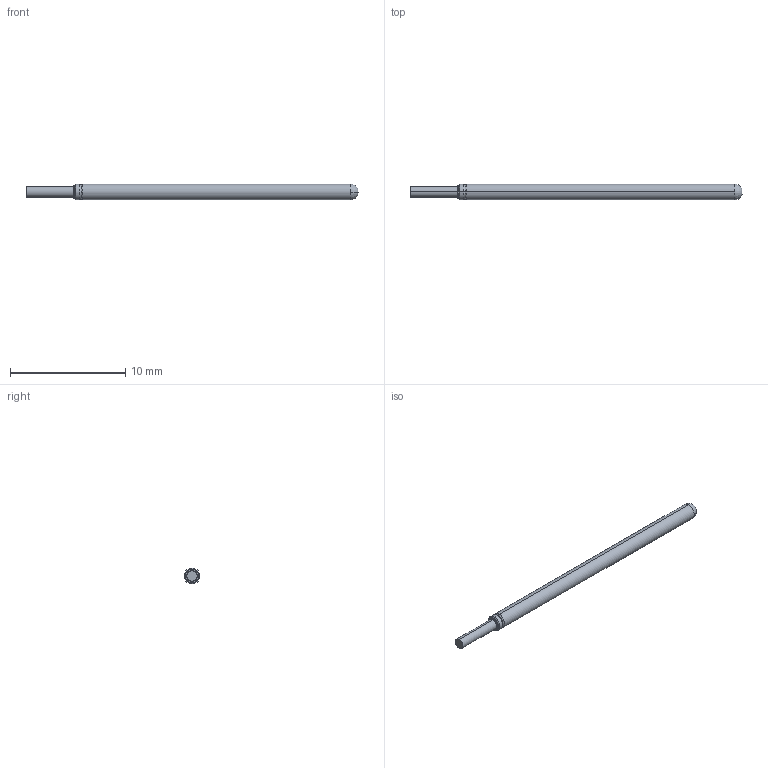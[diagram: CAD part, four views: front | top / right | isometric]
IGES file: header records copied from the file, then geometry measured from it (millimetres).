
Start section: SolidWorks IGES file using analytic representation for surfaces
Global section: file name: Z:\probe solid model mockups\Solidworks models\POGO-25 IGS files\POGO-25C RECD.IGS; native system: SolidWorks 2006 by SolidWorks Corporation; preprocessor: SolidWorks 2006 by SolidWorks Corporation; author: tsakatani; date: 071214.084415; units: inch
Bounding box: 28.78 x 1.37 x 1.37 mm (x, y, z)
Surface area: 119.7 mm2 (no closed solid volume)
Topology: 0 solids, 0 shells, 19 faces, 132 edges, 132 vertices
Faces by surface type: revolution 12, bspline 7
